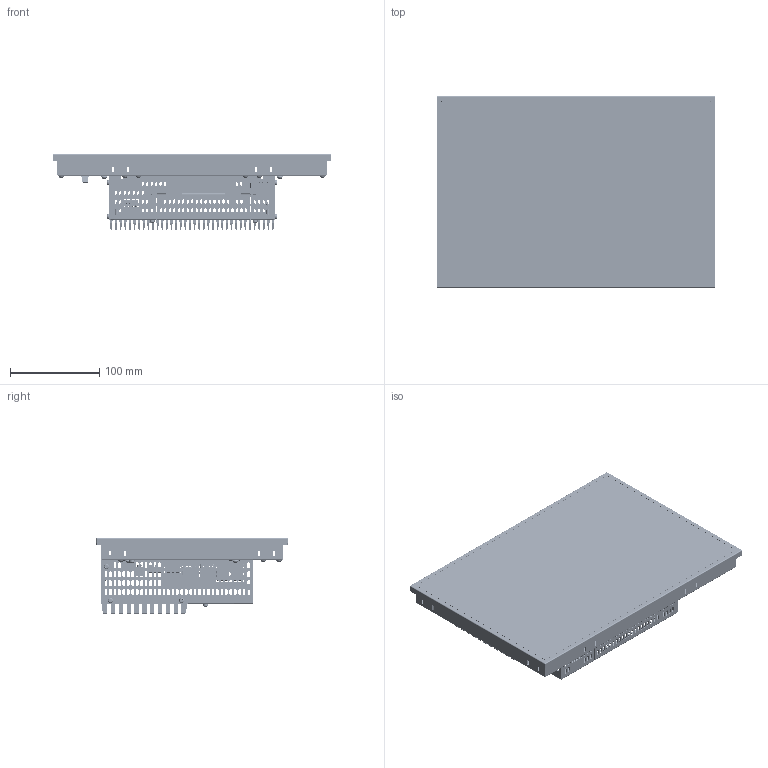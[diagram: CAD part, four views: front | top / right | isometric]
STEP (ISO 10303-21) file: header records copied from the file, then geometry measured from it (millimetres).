
FILE_DESCRIPTION (( 'STEP AP214' ), '1' );
FILE_NAME ('ETT1244 (01-230-1244) 20191206.STEP', '2019-12-06T15:51:23', ( 'Windows-Benutzer' ), ( '' ), 'SwSTEP 2.0', 'SolidWorks 2018', '' );
FILE_SCHEMA (( 'AUTOMOTIVE_DESIGN' ));
Length unit declared in the file: millimetre
Products named in the file (1): ETT1244 (01-230-1244) 20191206
Bounding box: 313 x 215 x 85 mm (x, y, z)
Surface area: 652520.5 mm2 (no closed solid volume)
Topology: 0 solids, 117 shells, 14509 faces, 40243 edges, 26372 vertices
Faces by surface type: plane 8535, cylinder 5199, cone 435, bspline 222, torus 90, sphere 28
Full cylindrical faces by diameter (mm): 0.2 x1
Entity records: 640521 total; most frequent: CARTESIAN_POINT 104643, ORIENTED_EDGE 80112, DIRECTION 75120, EDGE_CURVE 40215, LINE 27032, VECTOR 27032, VERTEX_POINT 26394, AXIS2_PLACEMENT_3D 24044
